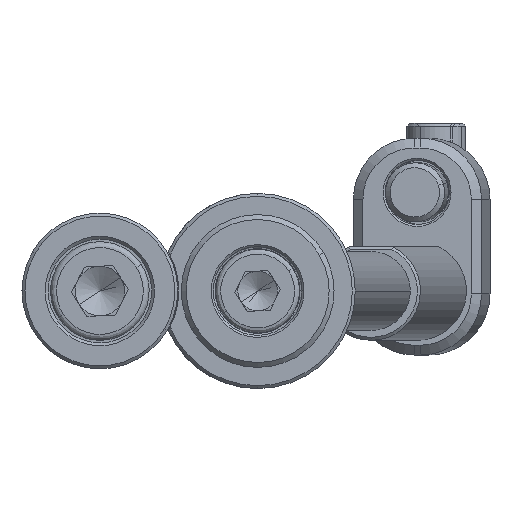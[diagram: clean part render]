
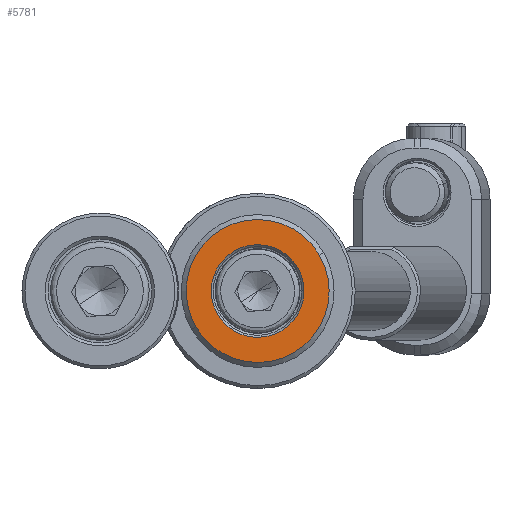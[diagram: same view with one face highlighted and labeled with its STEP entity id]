
A CAD part, front view. The second image highlights one B-rep face of the part: STEP entity #5781.
In plain terms, the highlighted planar face has unit normal (0, -1, 0).
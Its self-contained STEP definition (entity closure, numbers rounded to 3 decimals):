
#5 = AXIS2_PLACEMENT_3D ( 'NONE', #6640, #6702, #1260 ) ;
#93 = DIRECTION ( 'NONE',  ( 0., -1., 0. ) ) ;
#154 = DIRECTION ( 'NONE',  ( -0.865, 0., -0.503 ) ) ;
#1260 = DIRECTION ( 'NONE',  ( -0.865, 0., -0.503 ) ) ;
#1491 = VERTEX_POINT ( 'NONE', #1710 ) ;
#1710 = CARTESIAN_POINT ( 'NONE',  ( 6.268, -4., 3.643 ) ) ;
#1812 = ORIENTED_EDGE ( 'NONE', *, *, #9221, .T. ) ;
#2387 = CARTESIAN_POINT ( 'NONE',  ( 2.261, -4., -3.891 ) ) ;
#2405 = CARTESIAN_POINT ( 'NONE',  ( 0., -4., 0. ) ) ;
#2489 = CIRCLE ( 'NONE', #13082, 4.7 ) ;
#2945 = VERTEX_POINT ( 'NONE', #10636 ) ;
#3200 = DIRECTION ( 'NONE',  ( 0., 1., 0. ) ) ;
#3285 = DIRECTION ( 'NONE',  ( -0.865, 0., -0.503 ) ) ;
#3465 = CARTESIAN_POINT ( 'NONE',  ( 0., -4., 0. ) ) ;
#3695 = AXIS2_PLACEMENT_3D ( 'NONE', #11122, #5620, #3285 ) ;
#3909 = FACE_OUTER_BOUND ( 'NONE', #5676, .T. ) ;
#4747 = CIRCLE ( 'NONE', #5, 4.7 ) ;
#5426 = EDGE_CURVE ( 'NONE', #13359, #1491, #11739, .T. ) ;
#5620 = DIRECTION ( 'NONE',  ( 0., -1., 0. ) ) ;
#5676 = EDGE_LOOP ( 'NONE', ( #5835, #1812 ) ) ;
#5781 = ADVANCED_FACE ( 'NONE', ( #7435, #3909 ), #7205, .F. ) ;
#5835 = ORIENTED_EDGE ( 'NONE', *, *, #5426, .T. ) ;
#6061 = ORIENTED_EDGE ( 'NONE', *, *, #11883, .T. ) ;
#6640 = CARTESIAN_POINT ( 'NONE',  ( 0., -4., 0. ) ) ;
#6702 = DIRECTION ( 'NONE',  ( 0., 1., 0. ) ) ;
#6708 = DIRECTION ( 'NONE',  ( -0.865, 0., -0.503 ) ) ;
#6929 = ORIENTED_EDGE ( 'NONE', *, *, #10812, .T. ) ;
#6975 = VERTEX_POINT ( 'NONE', #9523 ) ;
#7205 = PLANE ( 'NONE',  #11958 ) ;
#7435 = FACE_BOUND ( 'NONE', #12202, .T. ) ;
#8888 = CIRCLE ( 'NONE', #14178, 7.25 ) ;
#9221 = EDGE_CURVE ( 'NONE', #1491, #13359, #8888, .T. ) ;
#9523 = CARTESIAN_POINT ( 'NONE',  ( -4.063, -4., -2.362 ) ) ;
#10636 = CARTESIAN_POINT ( 'NONE',  ( 4.063, -4., 2.362 ) ) ;
#10812 = EDGE_CURVE ( 'NONE', #2945, #6975, #2489, .T. ) ;
#10820 = DIRECTION ( 'NONE',  ( -0.865, 0., -0.503 ) ) ;
#11122 = CARTESIAN_POINT ( 'NONE',  ( 0., -4., 0. ) ) ;
#11739 = CIRCLE ( 'NONE', #3695, 7.25 ) ;
#11883 = EDGE_CURVE ( 'NONE', #6975, #2945, #4747, .T. ) ;
#11958 = AXIS2_PLACEMENT_3D ( 'NONE', #2387, #13138, #6708 ) ;
#12202 = EDGE_LOOP ( 'NONE', ( #6929, #6061 ) ) ;
#13082 = AXIS2_PLACEMENT_3D ( 'NONE', #3465, #3200, #10820 ) ;
#13138 = DIRECTION ( 'NONE',  ( 0., 1., 0. ) ) ;
#13359 = VERTEX_POINT ( 'NONE', #14135 ) ;
#14135 = CARTESIAN_POINT ( 'NONE',  ( -6.268, -4., -3.643 ) ) ;
#14178 = AXIS2_PLACEMENT_3D ( 'NONE', #2405, #93, #154 ) ;
